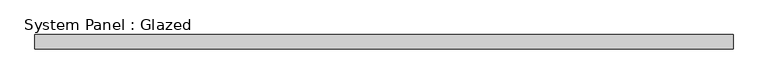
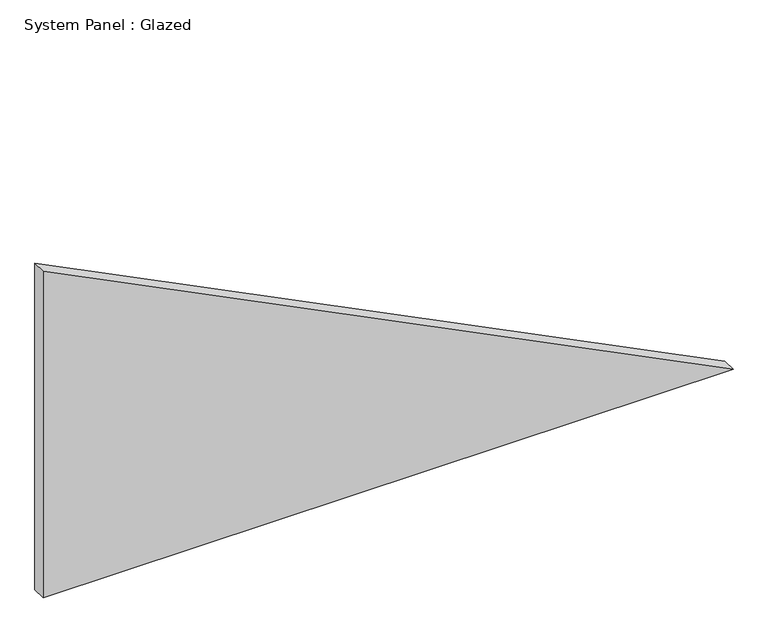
"""IFC4 building model written with IfcOpenShell, lengths in millimetres: plate geometry, System Panel : Glazed."""

from ifc_helpers import new_model, si_unit, frame, origin, place, context, project, spatial, polyline, outline, extrude, source, transform, mapped, element, save


def system_panel_glazed_57d15483(model_context):
    return source(origin(), model_context, "Body", "SweptSolid", [
        extrude(outline(polyline([(0.0, -623.6692831), (0.0, 623.6692831), (623.6692831, -623.6692831), (0.0, -623.6692831)])), frame((0.0, 19.05, 0.0), z_axis=(0.0, 1.0, 0.0), x_axis=(0.0, 0.0, 1.0)), (0.0, 0.0, 1.0), 25.4),
    ])


if __name__ == "__main__":
    model = new_model("IFC4")
    model_context = context("Model", 3, world=origin())
    ifc_project = project(units=[si_unit("LENGTHUNIT", "METRE", prefix="MILLI")], contexts=[model_context])
    site = spatial("IfcSite", under=ifc_project)
    building = spatial("IfcBuilding", under=site)
    placement = place(None, origin())
    system_panel_glazed_shape = system_panel_glazed_57d15483(model_context)
    element("IfcPlate", 1, ObjectType="System Panel : Glazed", at=placement, inside=building, context=model_context, shape_type="MappedRepresentation", body=[
        mapped(system_panel_glazed_shape, transform((0.0, 0.0, 0.0), x_axis=(1.0, 0.0, 0.0), y_axis=(0.0, 1.0, 0.0), z_axis=(0.0, 0.0, 1.0))),
    ])
    save(model, "model.ifc")
